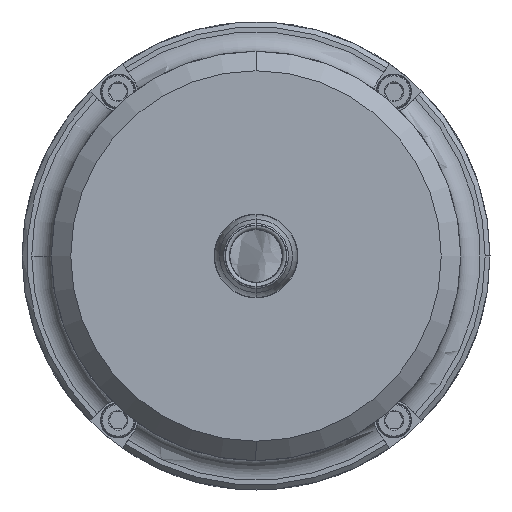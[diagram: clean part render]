
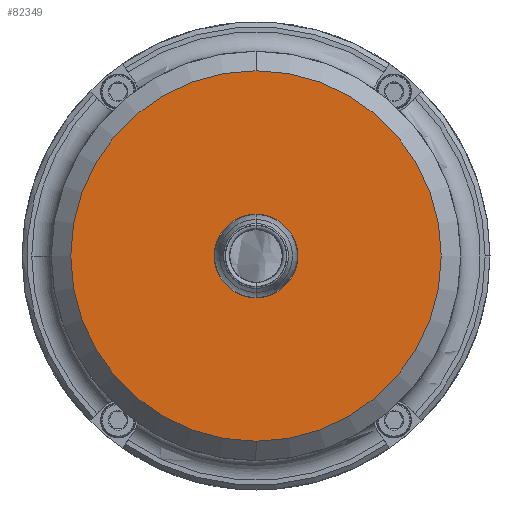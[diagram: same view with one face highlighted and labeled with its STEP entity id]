
A CAD part, front view. The second image highlights one B-rep face of the part: STEP entity #82349.
In plain terms, the highlighted planar face has unit normal (0, -1, 0).
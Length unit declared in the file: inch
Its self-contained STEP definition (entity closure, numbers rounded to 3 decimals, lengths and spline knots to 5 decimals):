
#2271 = CARTESIAN_POINT ( 'NONE',  ( 0., -1.4375, -1.1875 ) ) ;
#3163 = EDGE_CURVE ( 'NONE', #19965, #39895, #18183, .T. ) ;
#3666 = DIRECTION ( 'NONE',  ( 0., -1., 0. ) ) ;
#3806 = CARTESIAN_POINT ( 'NONE',  ( 0., -1.4375, 0.2675 ) ) ;
#5091 = CIRCLE ( 'NONE', #50424, 0.2675 ) ;
#6722 = ORIENTED_EDGE ( 'NONE', *, *, #40367, .T. ) ;
#6736 = ORIENTED_EDGE ( 'NONE', *, *, #59839, .T. ) ;
#7353 = AXIS2_PLACEMENT_3D ( 'NONE', #48332, #3666, #61320 ) ;
#10248 = DIRECTION ( 'NONE',  ( 0., 0., -1. ) ) ;
#15412 = AXIS2_PLACEMENT_3D ( 'NONE', #43292, #29619, #74277 ) ;
#15429 = CIRCLE ( 'NONE', #47343, 0.2675 ) ;
#15727 = DIRECTION ( 'NONE',  ( 0., 1., 0. ) ) ;
#17961 = FACE_BOUND ( 'NONE', #27378, .T. ) ;
#18183 = CIRCLE ( 'NONE', #75464, 1.1875 ) ;
#18647 = ORIENTED_EDGE ( 'NONE', *, *, #3163, .T. ) ;
#19513 = DIRECTION ( 'NONE',  ( 0., 0., -1. ) ) ;
#19965 = VERTEX_POINT ( 'NONE', #2271 ) ;
#21763 = CARTESIAN_POINT ( 'NONE',  ( 0., -1.4375, 1.1875 ) ) ;
#27378 = EDGE_LOOP ( 'NONE', ( #6722, #68594 ) ) ;
#28642 = CARTESIAN_POINT ( 'NONE',  ( 0., -1.4375, 0. ) ) ;
#29053 = DIRECTION ( 'NONE',  ( 0., 0., -1. ) ) ;
#29619 = DIRECTION ( 'NONE',  ( 0., 1., 0. ) ) ;
#39895 = VERTEX_POINT ( 'NONE', #21763 ) ;
#40254 = DIRECTION ( 'NONE',  ( 0., 1., 0. ) ) ;
#40367 = EDGE_CURVE ( 'NONE', #62319, #65179, #5091, .T. ) ;
#43292 = CARTESIAN_POINT ( 'NONE',  ( -1.3125, -1.4375, 0. ) ) ;
#46501 = EDGE_CURVE ( 'NONE', #65179, #62319, #15429, .T. ) ;
#47343 = AXIS2_PLACEMENT_3D ( 'NONE', #72907, #15727, #10248 ) ;
#48021 = EDGE_LOOP ( 'NONE', ( #18647, #6736 ) ) ;
#48332 = CARTESIAN_POINT ( 'NONE',  ( 0., -1.4375, 0. ) ) ;
#50424 = AXIS2_PLACEMENT_3D ( 'NONE', #28642, #40254, #29053 ) ;
#53605 = CARTESIAN_POINT ( 'NONE',  ( 0., -1.4375, -0.2675 ) ) ;
#59839 = EDGE_CURVE ( 'NONE', #39895, #19965, #63341, .T. ) ;
#61320 = DIRECTION ( 'NONE',  ( 0., 0., -1. ) ) ;
#61339 = PLANE ( 'NONE',  #15412 ) ;
#62319 = VERTEX_POINT ( 'NONE', #53605 ) ;
#62475 = DIRECTION ( 'NONE',  ( 0., -1., 0. ) ) ;
#63341 = CIRCLE ( 'NONE', #7353, 1.1875 ) ;
#65179 = VERTEX_POINT ( 'NONE', #3806 ) ;
#68594 = ORIENTED_EDGE ( 'NONE', *, *, #46501, .T. ) ;
#69508 = CARTESIAN_POINT ( 'NONE',  ( 0., -1.4375, 0. ) ) ;
#72907 = CARTESIAN_POINT ( 'NONE',  ( 0., -1.4375, 0. ) ) ;
#73433 = FACE_OUTER_BOUND ( 'NONE', #48021, .T. ) ;
#74277 = DIRECTION ( 'NONE',  ( 0., 0., -1. ) ) ;
#75464 = AXIS2_PLACEMENT_3D ( 'NONE', #69508, #62475, #19513 ) ;
#82349 = ADVANCED_FACE ( 'NONE', ( #17961, #73433 ), #61339, .F. ) ;
